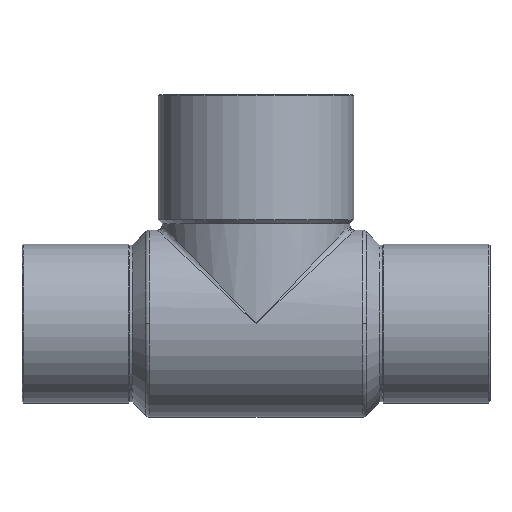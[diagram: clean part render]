
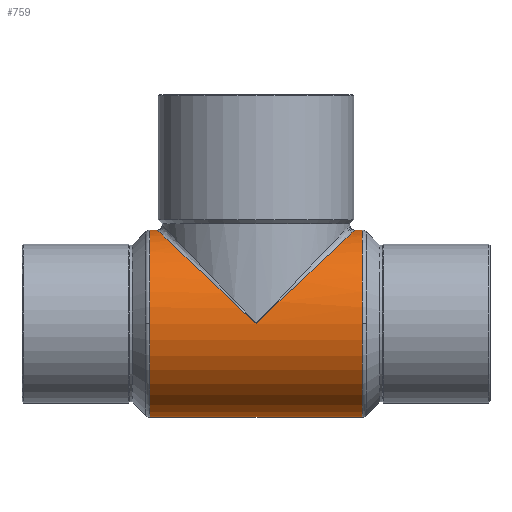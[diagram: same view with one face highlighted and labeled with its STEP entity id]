
A CAD part, top view. The second image highlights one B-rep face of the part: STEP entity #759.
In plain terms, the highlighted cylindrical face has radius 18 mm (diameter 36 mm), a partial arc.
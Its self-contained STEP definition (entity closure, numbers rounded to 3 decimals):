
#404=CARTESIAN_POINT('',(0.0,0.0,18.0));
#405=VERTEX_POINT('',#404);
#617=CARTESIAN_POINT('',(-20.449,0.,18.0));
#618=VERTEX_POINT('',#617);
#626=CARTESIAN_POINT('',(-20.449,18.0,0.));
#627=VERTEX_POINT('',#626);
#628=CARTESIAN_POINT('',(-20.449,0.0,0.0));
#629=DIRECTION('',(-1.0,0.0,0.0));
#630=DIRECTION('',(0.0,-1.0,0.0));
#631=AXIS2_PLACEMENT_3D('',#628,#629,#630);
#632=CIRCLE('',#631,18.0);
#633=EDGE_CURVE('',#618,#627,#632,.T.);
#686=CARTESIAN_POINT('',(0.,0.0,0.0));
#687=DIRECTION('',(1.0,0.0,0.0));
#688=DIRECTION('',(0.0,1.0,0.0));
#689=AXIS2_PLACEMENT_3D('',#686,#687,#688);
#690=CYLINDRICAL_SURFACE('',#689,18.0);
#691=CARTESIAN_POINT('',(-19.0,18.0,0.));
#692=VERTEX_POINT('',#691);
#693=CARTESIAN_POINT('',(-20.449,18.0,0.));
#694=DIRECTION('',(1.0,0.0,0.0));
#695=VECTOR('',#694,1.449);
#696=LINE('',#693,#695);
#697=EDGE_CURVE('',#627,#692,#696,.T.);
#698=ORIENTED_EDGE('',*,*,#697,.F.);
#699=ORIENTED_EDGE('',*,*,#633,.F.);
#700=CARTESIAN_POINT('',(-20.449,-18.0,0.));
#701=VERTEX_POINT('',#700);
#702=CARTESIAN_POINT('',(-20.449,0.0,0.0));
#703=DIRECTION('',(-1.0,0.0,0.0));
#704=DIRECTION('',(0.0,-1.0,0.0));
#705=AXIS2_PLACEMENT_3D('',#702,#703,#704);
#706=CIRCLE('',#705,18.0);
#707=EDGE_CURVE('',#701,#618,#706,.T.);
#708=ORIENTED_EDGE('',*,*,#707,.F.);
#709=CARTESIAN_POINT('',(20.449,-18.0,0.));
#710=VERTEX_POINT('',#709);
#711=CARTESIAN_POINT('',(20.449,-18.0,0.));
#712=DIRECTION('',(-1.0,0.0,0.0));
#713=VECTOR('',#712,40.897);
#714=LINE('',#711,#713);
#715=EDGE_CURVE('',#710,#701,#714,.T.);
#716=ORIENTED_EDGE('',*,*,#715,.F.);
#717=CARTESIAN_POINT('',(20.449,0.,18.0));
#718=VERTEX_POINT('',#717);
#719=CARTESIAN_POINT('',(20.449,0.0,0.0));
#720=DIRECTION('',(1.0,0.0,0.0));
#721=DIRECTION('',(0.0,-1.0,0.0));
#722=AXIS2_PLACEMENT_3D('',#719,#720,#721);
#723=CIRCLE('',#722,18.0);
#724=EDGE_CURVE('',#718,#710,#723,.T.);
#725=ORIENTED_EDGE('',*,*,#724,.F.);
#726=CARTESIAN_POINT('',(20.449,18.0,0.0));
#727=VERTEX_POINT('',#726);
#728=CARTESIAN_POINT('',(20.449,0.0,0.0));
#729=DIRECTION('',(1.0,0.0,0.0));
#730=DIRECTION('',(0.0,-1.0,0.0));
#731=AXIS2_PLACEMENT_3D('',#728,#729,#730);
#732=CIRCLE('',#731,18.0);
#733=EDGE_CURVE('',#727,#718,#732,.T.);
#734=ORIENTED_EDGE('',*,*,#733,.F.);
#735=CARTESIAN_POINT('',(19.0,18.0,0.));
#736=VERTEX_POINT('',#735);
#737=CARTESIAN_POINT('',(19.0,18.0,0.));
#738=DIRECTION('',(1.0,0.0,0.0));
#739=VECTOR('',#738,1.449);
#740=LINE('',#737,#739);
#741=EDGE_CURVE('',#736,#727,#740,.T.);
#742=ORIENTED_EDGE('',*,*,#741,.F.);
#743=CARTESIAN_POINT('',(0.0,0.0,0.0));
#744=DIRECTION('',(-0.688,0.726,0.0));
#745=DIRECTION('',(0.726,0.688,0.0));
#746=AXIS2_PLACEMENT_3D('',#743,#744,#745);
#747=ELLIPSE('',#746,26.173,18.0);
#748=EDGE_CURVE('',#405,#736,#747,.T.);
#749=ORIENTED_EDGE('',*,*,#748,.F.);
#750=CARTESIAN_POINT('',(0.0,0.0,0.0));
#751=DIRECTION('',(0.688,0.726,0.0));
#752=DIRECTION('',(-0.726,0.688,0.0));
#753=AXIS2_PLACEMENT_3D('',#750,#751,#752);
#754=ELLIPSE('',#753,26.173,18.0);
#755=EDGE_CURVE('',#692,#405,#754,.T.);
#756=ORIENTED_EDGE('',*,*,#755,.F.);
#757=EDGE_LOOP('',(#698,#699,#708,#716,#725,#734,#742,#749,#756));
#758=FACE_OUTER_BOUND('',#757,.T.);
#759=ADVANCED_FACE('',(#758),#690,.T.);
